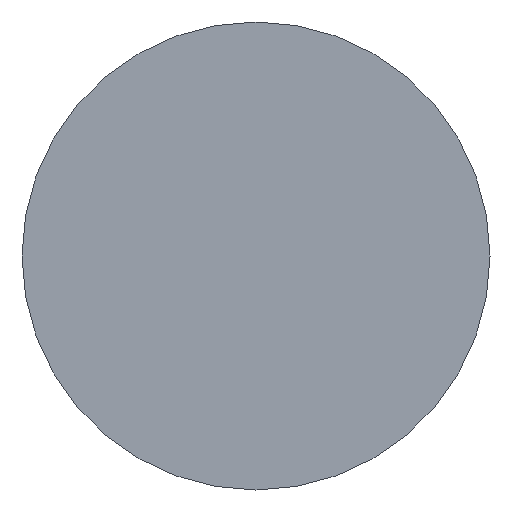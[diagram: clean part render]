
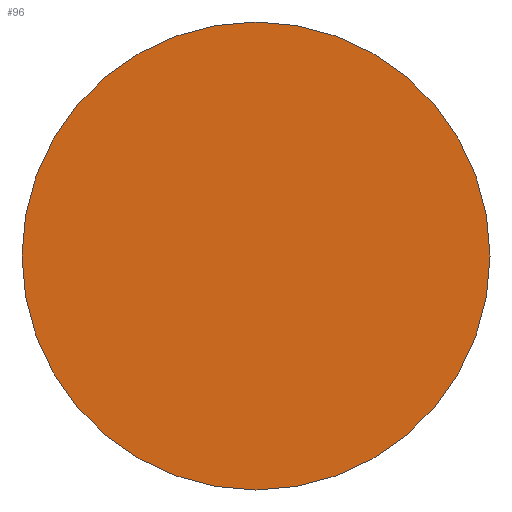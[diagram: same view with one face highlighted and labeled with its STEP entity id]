
A CAD part, front view. The second image highlights one B-rep face of the part: STEP entity #96.
In plain terms, the highlighted planar face has unit normal (0, -1, 0).
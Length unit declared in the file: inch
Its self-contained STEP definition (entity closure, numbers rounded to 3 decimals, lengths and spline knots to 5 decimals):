
#18=PLANE('',#124);
#28=FACE_OUTER_BOUND('',#34,.T.);
#34=EDGE_LOOP('',(#89,#90));
#43=CIRCLE('',#122,0.1875);
#44=CIRCLE('',#123,0.1875);
#53=VERTEX_POINT('',#205);
#54=VERTEX_POINT('',#206);
#64=EDGE_CURVE('',#53,#54,#43,.T.);
#65=EDGE_CURVE('',#54,#53,#44,.T.);
#89=ORIENTED_EDGE('',*,*,#64,.T.);
#90=ORIENTED_EDGE('',*,*,#65,.T.);
#96=ADVANCED_FACE('',(#28),#18,.T.);
#122=AXIS2_PLACEMENT_3D('',#207,#150,#151);
#123=AXIS2_PLACEMENT_3D('',#208,#152,#153);
#124=AXIS2_PLACEMENT_3D('',#210,#155,#156);
#150=DIRECTION('center_axis',(0.,-1.,0.));
#151=DIRECTION('ref_axis',(1.,0.,0.));
#152=DIRECTION('center_axis',(0.,-1.,0.));
#153=DIRECTION('ref_axis',(1.,0.,0.));
#155=DIRECTION('center_axis',(0.,-1.,0.));
#156=DIRECTION('ref_axis',(0.,0.,-1.));
#205=CARTESIAN_POINT('',(0.1875,0.,0.));
#206=CARTESIAN_POINT('',(-0.1875,0.,0.));
#207=CARTESIAN_POINT('Origin',(0.,0.,0.));
#208=CARTESIAN_POINT('Origin',(0.,0.,0.));
#210=CARTESIAN_POINT('Origin',(0.,0.,0.));
